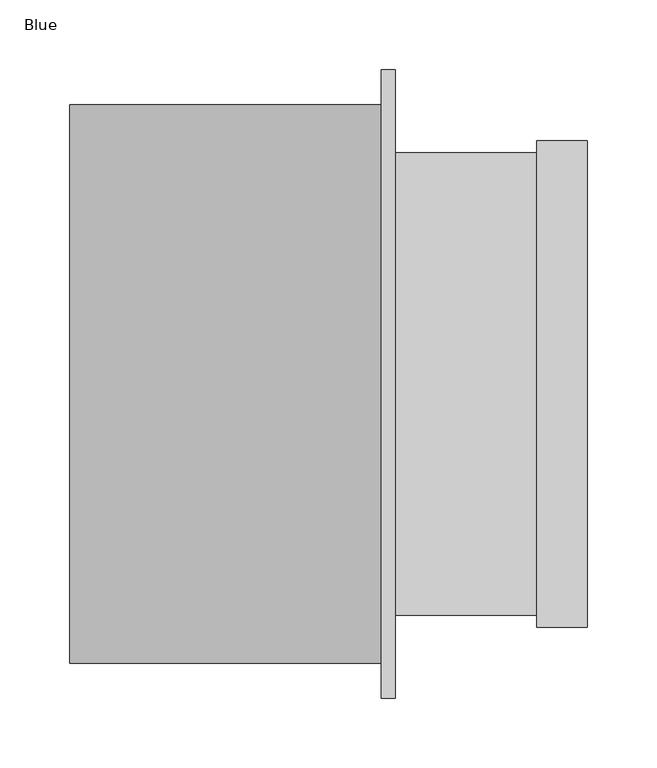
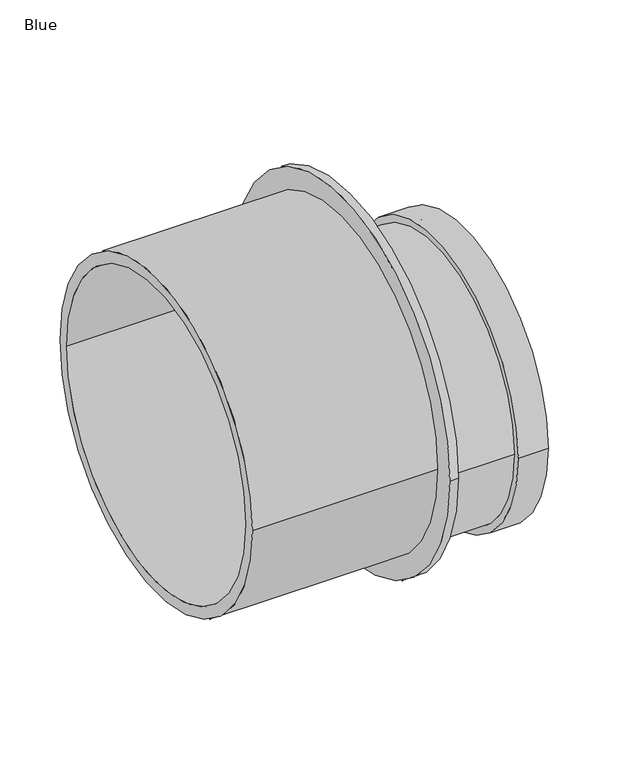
"""IFC4 building model written with IfcOpenShell, lengths in millimetres: pipe fitting geometry, AWADUKT PP Transition : Blue."""

from ifc_helpers import new_model, si_unit, point, frame, frame_2d, origin, origin_2d, place, context, project, spatial, polyline, circle_curve, trimmed, segment, composite_curve, outline, extrude, source, transform, mapped, element, save
from ifc_brep_helpers import plane_surface, cylinder_surface, revolved_surface, advanced_brep


def blue_b31ea3b4(model_context):
    return source(origin(), model_context, "Body", "SolidModel", [
        extrude(outline(composite_curve([segment(trimmed(circle_curve(origin_2d(), 225.0), [point((-225.0, 0.0))], [point((225.0, 0.0))], False, "CARTESIAN"), True, "CONTINUOUS"), segment(trimmed(circle_curve(origin_2d(), 225.0), [point((225.0, 0.0))], [point((-225.0, 0.0))], False, "CARTESIAN"), True, "CONTINUOUS")], self_intersect=False), holes=[composite_curve([segment(trimmed(circle_curve(frame_2d((0.0, -40.7)), 146.4), [point((-146.4, -40.7))], [point((146.4, -40.7))], True, "CARTESIAN"), True, "CONTINUOUS"), segment(trimmed(circle_curve(frame_2d((0.0, -40.7)), 146.4), [point((146.4, -40.7))], [point((-146.4, -40.7))], True, "CARTESIAN"), True, "CONTINUOUS")], self_intersect=False)]), frame((232.0, 0.0, 0.0), z_axis=(1.0, 0.0, 0.0), x_axis=(0.0, 1.0, 0.0)), (0.0, 0.0, 1.0), 10.0),
        advanced_brep(
        [(343.5, -165.7, -40.7), (343.5, 165.7, -40.7), (242.0, 165.7, -40.7), (242.0, -165.7, -40.7), (379.5, -174.1, -40.7), (379.5, 174.1, -40.7), (343.5, 174.1, -40.7), (343.5, -174.1, -40.7), (371.3, -157.5, -40.7), (371.3, 157.5, -40.7), (379.5, 157.5, -40.7), (379.5, -157.5, -40.7), (351.7, -165.7, -40.7), (351.7, 165.7, -40.7), (371.3, 165.7, -40.7), (371.3, -165.7, -40.7), (242.0, -157.5, -40.7), (242.0, 157.5, -40.7), (351.7, 157.5, -40.7), (351.7, -157.5, -40.7)],
        [
            (0, 1, circle_curve(frame((343.5, 0.0, -40.7), z_axis=(-1.0, 0.0, 0.0), x_axis=(0.0, 1.0, 0.0)), 165.7)),
            (1, 2),
            (2, 3, circle_curve(frame((242.0, 0.0, -40.7), z_axis=(1.0, 0.0, 0.0), x_axis=(0.0, 1.0, 0.0)), 165.7)),
            (3, 0),
            (4, 5, circle_curve(frame((379.5, 0.0, -40.7), z_axis=(-1.0, 0.0, 0.0), x_axis=(0.0, 1.0, 0.0)), 174.1)),
            (5, 6),
            (6, 7, circle_curve(frame((343.5, 0.0, -40.7), z_axis=(1.0, 0.0, 0.0), x_axis=(0.0, 1.0, 0.0)), 174.1)),
            (7, 4),
            (8, 9, circle_curve(frame((371.3, 0.0, -40.7), z_axis=(-1.0, 0.0, 0.0), x_axis=(0.0, 1.0, 0.0)), 157.5)),
            (9, 10),
            (10, 11, circle_curve(frame((379.5, 0.0, -40.7), z_axis=(1.0, 0.0, 0.0), x_axis=(0.0, 1.0, 0.0)), 157.5)),
            (11, 8),
            (12, 13, circle_curve(frame((351.7, 0.0, -40.7), z_axis=(-1.0, 0.0, 0.0), x_axis=(0.0, 1.0, 0.0)), 165.7)),
            (13, 14),
            (14, 15, circle_curve(frame((371.3, 0.0, -40.7), z_axis=(1.0, 0.0, 0.0), x_axis=(0.0, 1.0, 0.0)), 165.7)),
            (15, 12),
            (16, 17, circle_curve(frame((242.0, 0.0, -40.7), z_axis=(-1.0, 0.0, 0.0), x_axis=(0.0, 1.0, 0.0)), 157.5)),
            (17, 18),
            (18, 19, circle_curve(frame((351.7, 0.0, -40.7), z_axis=(1.0, 0.0, 0.0), x_axis=(0.0, 1.0, 0.0)), 157.5)),
            (19, 16),
            (2, 3, circle_curve(frame((242.0, 0.0, -40.7), z_axis=(-1.0, 0.0, 0.0), x_axis=(0.0, -1.0, 0.0)), 165.7)),
            (16, 17, circle_curve(frame((242.0, 0.0, -40.7), z_axis=(1.0, 0.0, 0.0), x_axis=(0.0, -1.0, 0.0)), 157.5)),
            (1, 0, circle_curve(frame((343.5, 0.0, -40.7), z_axis=(-1.0, 0.0, 0.0), x_axis=(0.0, -1.0, 0.0)), 165.7)),
            (6, 7, circle_curve(frame((343.5, 0.0, -40.7), z_axis=(-1.0, 0.0, 0.0), x_axis=(0.0, -1.0, 0.0)), 174.1)),
            (5, 4, circle_curve(frame((379.5, 0.0, -40.7), z_axis=(-1.0, 0.0, 0.0), x_axis=(0.0, -1.0, 0.0)), 174.1)),
            (10, 11, circle_curve(frame((379.5, 0.0, -40.7), z_axis=(-1.0, 0.0, 0.0), x_axis=(0.0, -1.0, 0.0)), 157.5)),
            (9, 8, circle_curve(frame((371.3, 0.0, -40.7), z_axis=(-1.0, 0.0, 0.0), x_axis=(0.0, -1.0, 0.0)), 157.5)),
            (14, 15, circle_curve(frame((371.3, 0.0, -40.7), z_axis=(-1.0, 0.0, 0.0), x_axis=(0.0, -1.0, 0.0)), 165.7)),
            (13, 12, circle_curve(frame((351.7, 0.0, -40.7), z_axis=(-1.0, 0.0, 0.0), x_axis=(0.0, -1.0, 0.0)), 165.7)),
            (18, 19, circle_curve(frame((351.7, 0.0, -40.7), z_axis=(-1.0, 0.0, 0.0), x_axis=(0.0, -1.0, 0.0)), 157.5)),
        ],
        [
            cylinder_surface(frame((242.0, 0.0, -40.7), z_axis=(1.0, 0.0, 0.0), x_axis=(0.0, 1.0, 0.0)), 165.7),
            cylinder_surface(frame((242.0, 0.0, -40.7), z_axis=(1.0, 0.0, 0.0), x_axis=(0.0, 1.0, 0.0)), 174.1),
            revolved_surface(polyline([(379.5, 157.5, -40.7), (371.3, 157.5, -40.7)]), (242.0, 0.0, -40.7), (1.0, 0.0, 0.0)),
            revolved_surface(polyline([(371.3, 165.7, -40.7), (351.7, 165.7, -40.7)]), (242.0, 0.0, -40.7), (1.0, 0.0, 0.0)),
            revolved_surface(polyline([(351.7, 157.5, -40.7), (242.0, 157.5, -40.7)]), (242.0, 0.0, -40.7), (1.0, 0.0, 0.0)),
            plane_surface(frame((242.0, 0.0, -40.7), z_axis=(-1.0, 0.0, 0.0), x_axis=(0.0, -1.0, 0.0))),
            cylinder_surface(frame((242.0, 0.0, -40.7), z_axis=(1.0, 0.0, 0.0), x_axis=(0.0, -1.0, 0.0)), 165.7),
            plane_surface(frame((343.5, 0.0, -40.7), z_axis=(-1.0, 0.0, 0.0), x_axis=(0.0, -1.0, 0.0))),
            cylinder_surface(frame((242.0, 0.0, -40.7), z_axis=(1.0, 0.0, 0.0), x_axis=(0.0, -1.0, 0.0)), 174.1),
            plane_surface(frame((379.5, 0.0, -40.7), z_axis=(1.0, 0.0, 0.0), x_axis=(0.0, -1.0, 0.0))),
            revolved_surface(polyline([(379.5, -157.5, -40.7), (371.3, -157.5, -40.7)]), (242.0, 0.0, -40.7), (1.0, 0.0, 0.0)),
            plane_surface(frame((371.3, 0.0, -40.7), z_axis=(-1.0, 0.0, 0.0), x_axis=(0.0, -1.0, 0.0))),
            revolved_surface(polyline([(371.3, -165.7, -40.7), (351.7, -165.7, -40.7)]), (242.0, 0.0, -40.7), (1.0, 0.0, 0.0)),
            plane_surface(frame((351.7, 0.0, -40.7), z_axis=(1.0, 0.0, 0.0), x_axis=(0.0, -1.0, 0.0))),
            revolved_surface(polyline([(351.7, -157.5, -40.7), (242.0, -157.5, -40.7)]), (242.0, 0.0, -40.7), (1.0, 0.0, 0.0)),
        ],
        [
            (0, [[1, 2, 3, 4]]),
            (1, [[5, 6, 7, 8]]),
            (2, [[9, 10, 11, 12]]),
            (3, [[13, 14, 15, 16]]),
            (4, [[17, 18, 19, 20]]),
            (5, [[21, -3], [22, -17]]),
            (6, [[23, -4, -21, -2]]),
            (7, [[24, -7], [-23, -1]]),
            (8, [[25, -8, -24, -6]]),
            (9, [[-25, -5], [26, -11]]),
            (10, [[27, -12, -26, -10]]),
            (11, [[28, -15], [-27, -9]]),
            (12, [[29, -16, -28, -14]]),
            (13, [[-29, -13], [30, -19]]),
            (14, [[-22, -20, -30, -18]]),
        ],
    ),
        extrude(outline(composite_curve([segment(trimmed(circle_curve(origin_2d(), 200.0), [point((-200.0, 0.0))], [point((200.0, 0.0))], False, "CARTESIAN"), True, "CONTINUOUS"), segment(trimmed(circle_curve(origin_2d(), 200.0), [point((200.0, 0.0))], [point((-200.0, 0.0))], False, "CARTESIAN"), True, "CONTINUOUS")], self_intersect=False), holes=[composite_curve([segment(trimmed(circle_curve(origin_2d(), 186.3), [point((186.3, 0.0))], [point((-186.3, 0.0))], True, "CARTESIAN"), True, "CONTINUOUS"), segment(trimmed(circle_curve(origin_2d(), 186.3), [point((-186.3, 0.0))], [point((186.3, 0.0))], True, "CARTESIAN"), True, "CONTINUOUS")], self_intersect=False)]), frame((9.0, 0.0, 0.0), z_axis=(1.0, 0.0, 0.0), x_axis=(0.0, 1.0, 0.0)), (0.0, 0.0, 1.0), 223.0),
    ])


if __name__ == "__main__":
    model = new_model("IFC4")
    model_context = context("Model", 3, world=origin())
    ifc_project = project(units=[si_unit("LENGTHUNIT", "METRE", prefix="MILLI")], contexts=[model_context])
    site = spatial("IfcSite", under=ifc_project)
    building = spatial("IfcBuilding", under=site)
    placement = place(None, origin())
    blue_shape = blue_b31ea3b4(model_context)
    element("IfcPipeFitting", 1, ObjectType="AWADUKT PP Transition : Blue", at=placement, inside=building, context=model_context, shape_type="MappedRepresentation", body=[
        mapped(blue_shape, transform((0.0, 0.0, 0.0), x_axis=(1.0, 0.0, 0.0), y_axis=(0.0, 1.0, 0.0), z_axis=(0.0, 0.0, 1.0))),
    ])
    save(model, "model.ifc")
